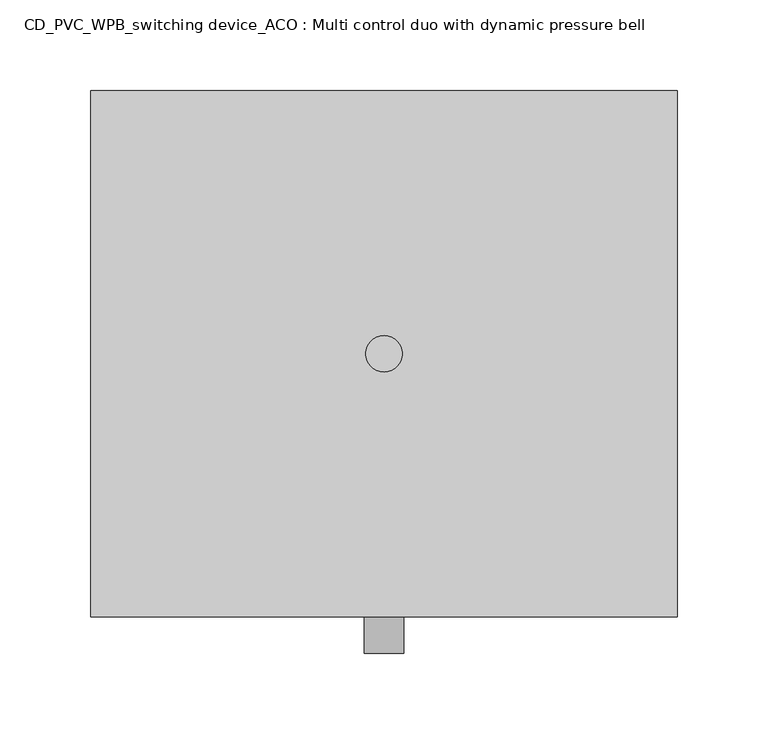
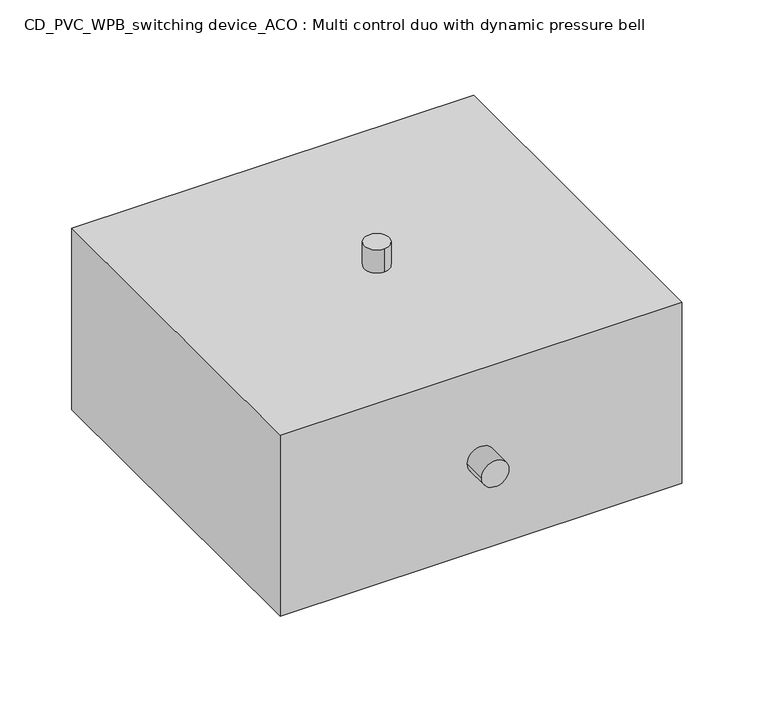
"""IFC4 building model written with IfcOpenShell, lengths in millimetres: proxy geometry, CD_PVC_WPB_switching device_ACO : Multi control duo with dynamic pressure bell."""

from ifc_helpers import new_model, si_unit, point, frame, origin, origin_2d, place, context, project, spatial, circle_curve, trimmed, segment, composite_curve, outline, extrude, source, transform, mapped, element, save
from ifc_brep_helpers import plane_surface, cylinder_surface, advanced_brep


def cd_pvc_wpb_switching_device_aco_multi_control_duo_with_f642bb7a(model_context):
    return source(origin(), model_context, "Body", "SolidModel", [
        advanced_brep(
        [(-11.0, -165.0, 77.0), (11.0, -165.0, 77.0), (11.0, -145.0, 77.0), (-11.0, -145.0, 77.0), (161.5, 145.0, 154.0), (-161.5, 145.0, 154.0), (-161.5, -145.0, 154.0), (161.5, -145.0, 154.0), (161.5, 145.0, 0.0), (161.5, -145.0, 0.0), (-161.5, -145.0, 0.0), (-161.5, 145.0, 0.0)],
        [
            (0, 1, circle_curve(frame((0.0, -165.0, 77.0), z_axis=(0.0, -1.0, 0.0), x_axis=(1.0, 0.0, 0.0)), 11.0)),
            (1, 0, circle_curve(frame((0.0, -165.0, 77.0), z_axis=(0.0, -1.0, 0.0), x_axis=(1.0, 0.0, 0.0)), 11.0)),
            (1, 2),
            (2, 3, circle_curve(frame((0.0, -145.0, 77.0), z_axis=(0.0, -1.0, 0.0), x_axis=(1.0, 0.0, 0.0)), 11.0)),
            (3, 0),
            (3, 2, circle_curve(frame((0.0, -145.0, 77.0), z_axis=(0.0, -1.0, 0.0), x_axis=(1.0, 0.0, 0.0)), 11.0)),
            (4, 5),
            (5, 6),
            (6, 7),
            (7, 4),
            (8, 9),
            (9, 10),
            (10, 11),
            (11, 8),
            (4, 8),
            (11, 5),
            (10, 6),
            (9, 7),
        ],
        [
            plane_surface(frame((0.0, -165.0, 77.0), z_axis=(0.0, -1.0, 0.0), x_axis=(0.0, 0.0, 1.0))),
            cylinder_surface(frame((0.0, -145.0, 77.0), z_axis=(0.0, 1.0, 0.0), x_axis=(1.0, 0.0, 0.0)), 11.0),
            plane_surface(frame((-161.5, 145.0, 154.0), z_axis=(0.0, 0.0, 1.0), x_axis=(-1.0, 0.0, 0.0))),
            plane_surface(frame((-161.5, 145.0, 0.0), z_axis=(0.0, 0.0, -1.0), x_axis=(1.0, 0.0, 0.0))),
            plane_surface(frame((161.5, 145.0, 154.0), z_axis=(0.0, 1.0, 0.0), x_axis=(0.0, 0.0, -1.0))),
            plane_surface(frame((-161.5, 145.0, 154.0), z_axis=(-1.0, 0.0, 0.0), x_axis=(0.0, 0.0, -1.0))),
            plane_surface(frame((-161.5, -145.0, 154.0), z_axis=(0.0, -1.0, 0.0), x_axis=(0.0, 0.0, -1.0))),
            plane_surface(frame((161.5, -145.0, 154.0), z_axis=(1.0, 0.0, 0.0), x_axis=(0.0, 0.0, -1.0))),
        ],
        [
            (0, [[1, 2]]),
            (1, [[-2, 3, 4, 5]]),
            (1, [[-1, -5, 6, -3]]),
            (2, [[7, 8, 9, 10]]),
            (3, [[11, 12, 13, 14]]),
            (4, [[-7, 15, -14, 16]]),
            (5, [[-8, -16, -13, 17]]),
            (6, [[-9, -17, -12, 18], [-4, -6]]),
            (7, [[-10, -18, -11, -15]]),
        ],
    ),
        extrude(outline(composite_curve([segment(trimmed(circle_curve(origin_2d(), 10.0), [point((0.0, 10.0))], [point((0.0, -10.0))], False, "CARTESIAN"), True, "CONTINUOUS"), segment(trimmed(circle_curve(origin_2d(), 10.0), [point((0.0, -10.0))], [point((0.0, 10.0))], False, "CARTESIAN"), True, "CONTINUOUS")], self_intersect=False)), frame((0.0, 0.0, 154.0), z_axis=(0.0, 0.0, 1.0), x_axis=(1.0, 0.0, 0.0)), (0.0, 0.0, 1.0), 20.0),
    ])


if __name__ == "__main__":
    model = new_model("IFC4")
    model_context = context("Model", 3, world=origin())
    ifc_project = project(units=[si_unit("LENGTHUNIT", "METRE", prefix="MILLI")], contexts=[model_context])
    site = spatial("IfcSite", under=ifc_project)
    building = spatial("IfcBuilding", under=site)
    placement = place(None, origin())
    cd_pvc_wpb_switching_device_aco_multi_control_duo_with_shape = cd_pvc_wpb_switching_device_aco_multi_control_duo_with_f642bb7a(model_context)
    element("IfcBuildingElementProxy", 1, Name="CD_PVC_WPB_switching device_ACO : Multi control duo with dynamic pressure bell", ObjectType="CD_PVC_WPB_switching device_ACO : Multi control duo with dynamic pressure bell", at=placement, inside=building, context=model_context, shape_type="MappedRepresentation", body=[
        mapped(cd_pvc_wpb_switching_device_aco_multi_control_duo_with_shape, transform((0.0, 0.0, 0.0), x_axis=(1.0, 0.0, 0.0), y_axis=(0.0, 1.0, 0.0), z_axis=(0.0, 0.0, 1.0))),
    ])
    save(model, "model.ifc")
